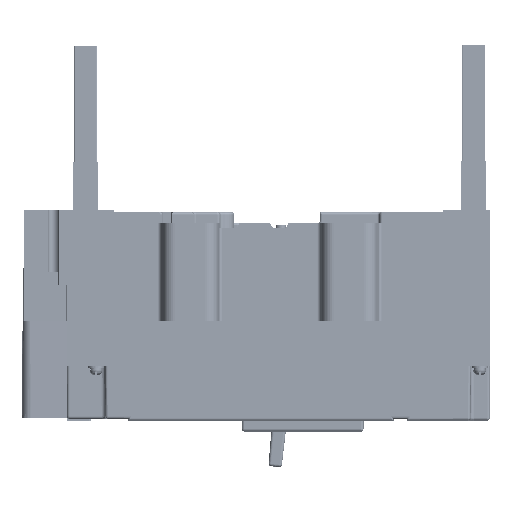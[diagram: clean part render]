
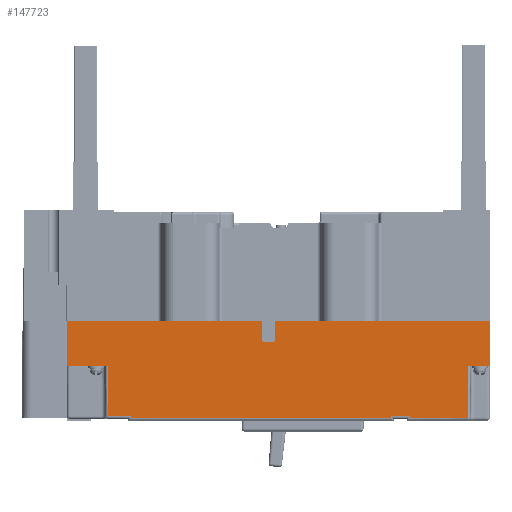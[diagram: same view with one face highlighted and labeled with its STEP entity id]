
A CAD part, left-side view. The second image highlights one B-rep face of the part: STEP entity #147723.
In plain terms, the highlighted planar face has unit normal (-1, 0, 0).
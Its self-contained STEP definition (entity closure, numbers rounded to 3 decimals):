
#8336 = CARTESIAN_POINT ( 'NONE',  ( -174.063, -5.722, -160.393 ) ) ;
#23820 = ORIENTED_EDGE ( 'NONE', *, *, #178137, .T. ) ;
#23822 = ORIENTED_EDGE ( 'NONE', *, *, #181579, .T. ) ;
#23824 = ORIENTED_EDGE ( 'NONE', *, *, #181131, .T. ) ;
#23827 = ORIENTED_EDGE ( 'NONE', *, *, #184129, .T. ) ;
#23829 = ORIENTED_EDGE ( 'NONE', *, *, #181502, .T. ) ;
#23832 = ORIENTED_EDGE ( 'NONE', *, *, #180177, .T. ) ;
#23834 = ORIENTED_EDGE ( 'NONE', *, *, #182353, .T. ) ;
#23837 = ORIENTED_EDGE ( 'NONE', *, *, #180363, .T. ) ;
#23839 = ORIENTED_EDGE ( 'NONE', *, *, #181870, .T. ) ;
#23841 = ORIENTED_EDGE ( 'NONE', *, *, #181563, .T. ) ;
#23843 = ORIENTED_EDGE ( 'NONE', *, *, #181369, .T. ) ;
#23845 = ORIENTED_EDGE ( 'NONE', *, *, #183919, .T. ) ;
#23848 = ORIENTED_EDGE ( 'NONE', *, *, #182772, .T. ) ;
#23850 = ORIENTED_EDGE ( 'NONE', *, *, #178999, .T. ) ;
#51887 = VERTEX_POINT ( 'NONE', #223431 ) ;
#52031 = VERTEX_POINT ( 'NONE', #223221 ) ;
#64653 = AXIS2_PLACEMENT_3D ( 'NONE', #94555, #94581, #94584 ) ;
#69977 = FACE_OUTER_BOUND ( 'NONE', #77623, .T. ) ;
#70695 = VERTEX_POINT ( 'NONE', #222362 ) ;
#70821 = VERTEX_POINT ( 'NONE', #225732 ) ;
#71045 = VERTEX_POINT ( 'NONE', #188754 ) ;
#71135 = VERTEX_POINT ( 'NONE', #188830 ) ;
#71269 = VERTEX_POINT ( 'NONE', #188938 ) ;
#77623 = EDGE_LOOP ( 'NONE', ( #23820, #23822, #23824, #23827, #23829, #23832, #23834, #23837, #23839, #23841, #23843, #23845, #23848, #23850 ) ) ;
#94555 = CARTESIAN_POINT ( 'NONE',  ( -174.063, -3.722, -162.393 ) ) ;
#94572 = PLANE ( 'NONE',  #64653 ) ;
#94581 = DIRECTION ( 'NONE',  ( -1., 0., 0. ) ) ;
#94584 = DIRECTION ( 'NONE',  ( 0., 1., 0. ) ) ;
#103563 = LINE ( 'NONE', #110036, #103576 ) ;
#103576 = VECTOR ( 'NONE', #110053, 1000. ) ;
#105210 = LINE ( 'NONE', #208588, #105222 ) ;
#105222 = VECTOR ( 'NONE', #208572, 1000. ) ;
#105574 = LINE ( 'NONE', #209186, #105578 ) ;
#105578 = VECTOR ( 'NONE', #209208, 1000. ) ;
#110036 = CARTESIAN_POINT ( 'NONE',  ( -174.063, 259.443, -85.543 ) ) ;
#110053 = DIRECTION ( 'NONE',  ( 0., 0., -1. ) ) ;
#111461 = CARTESIAN_POINT ( 'NONE',  ( -174.063, 259.443, -119.893 ) ) ;
#111469 = DIRECTION ( 'NONE',  ( 0., -1., 0. ) ) ;
#112789 = CARTESIAN_POINT ( 'NONE',  ( -174.063, 8.653, -159.193 ) ) ;
#147723 = ADVANCED_FACE ( 'NONE', ( #69977 ), #94572, .T. ) ;
#162723 = VERTEX_POINT ( 'NONE', #192301 ) ;
#163440 = LINE ( 'NONE', #111461, #163448 ) ;
#163448 = VECTOR ( 'NONE', #111469, 1000. ) ;
#178137 = EDGE_CURVE ( 'NONE', #162723, #51887, #163440, .T. ) ;
#178999 = EDGE_CURVE ( 'NONE', #194149, #162723, #103563, .T. ) ;
#180177 = EDGE_CURVE ( 'NONE', #71045, #264583, #105210, .T. ) ;
#180363 = EDGE_CURVE ( 'NONE', #70695, #266951, #105574, .T. ) ;
#181131 = EDGE_CURVE ( 'NONE', #255128, #265120, #213117, .T. ) ;
#181369 = EDGE_CURVE ( 'NONE', #71135, #70821, #213969, .T. ) ;
#181502 = EDGE_CURVE ( 'NONE', #71269, #71045, #214426, .T. ) ;
#181563 = EDGE_CURVE ( 'NONE', #255392, #71135, #214554, .T. ) ;
#181579 = EDGE_CURVE ( 'NONE', #51887, #255128, #214604, .T. ) ;
#181870 = EDGE_CURVE ( 'NONE', #266951, #255392, #215235, .T. ) ;
#182353 = EDGE_CURVE ( 'NONE', #264583, #70695, #216002, .T. ) ;
#182772 = EDGE_CURVE ( 'NONE', #52031, #194149, #247475, .T. ) ;
#183919 = EDGE_CURVE ( 'NONE', #70821, #52031, #248553, .T. ) ;
#184129 = EDGE_CURVE ( 'NONE', #265120, #71269, #248714, .T. ) ;
#188754 = CARTESIAN_POINT ( 'NONE',  ( -174.063, 8.653, -160.393 ) ) ;
#188830 = CARTESIAN_POINT ( 'NONE',  ( -174.063, -51.081, -119.893 ) ) ;
#188938 = CARTESIAN_POINT ( 'NONE',  ( -174.063, 209.843, -160.393 ) ) ;
#192301 = CARTESIAN_POINT ( 'NONE',  ( -174.063, 259.443, -119.893 ) ) ;
#194149 = VERTEX_POINT ( 'NONE', #269531 ) ;
#208572 = DIRECTION ( 'NONE',  ( 0., 0., 1. ) ) ;
#208588 = CARTESIAN_POINT ( 'NONE',  ( -174.063, 8.653, -161.193 ) ) ;
#209186 = CARTESIAN_POINT ( 'NONE',  ( -174.063, -5.722, -162.393 ) ) ;
#209208 = DIRECTION ( 'NONE',  ( 0., 0., -1. ) ) ;
#213117 = LINE ( 'NONE', #218492, #213179 ) ;
#213179 = VECTOR ( 'NONE', #218517, 1000. ) ;
#213969 = LINE ( 'NONE', #220242, #213996 ) ;
#213996 = VECTOR ( 'NONE', #220271, 1000. ) ;
#214426 = LINE ( 'NONE', #221321, #214432 ) ;
#214432 = VECTOR ( 'NONE', #221342, 1000. ) ;
#214554 = LINE ( 'NONE', #221736, #214571 ) ;
#214571 = VECTOR ( 'NONE', #221763, 1000. ) ;
#214604 = LINE ( 'NONE', #221833, #214621 ) ;
#214621 = VECTOR ( 'NONE', #221860, 1000. ) ;
#215235 = LINE ( 'NONE', #224040, #215238 ) ;
#215238 = VECTOR ( 'NONE', #224097, 1000. ) ;
#216002 = LINE ( 'NONE', #246544, #216006 ) ;
#216006 = VECTOR ( 'NONE', #246557, 1000. ) ;
#218492 = CARTESIAN_POINT ( 'NONE',  ( -174.063, 211.843, -159.193 ) ) ;
#218517 = DIRECTION ( 'NONE',  ( 0., -1., 0. ) ) ;
#220242 = CARTESIAN_POINT ( 'NONE',  ( -174.063, -53.082, -119.893 ) ) ;
#220271 = DIRECTION ( 'NONE',  ( 0., -1., 0. ) ) ;
#221321 = CARTESIAN_POINT ( 'NONE',  ( -174.063, -3.722, -160.393 ) ) ;
#221342 = DIRECTION ( 'NONE',  ( 0., -1., 0. ) ) ;
#221736 = CARTESIAN_POINT ( 'NONE',  ( -174.063, -51.082, -119.875 ) ) ;
#221763 = DIRECTION ( 'NONE',  ( 0., -0.009, 1. ) ) ;
#221833 = CARTESIAN_POINT ( 'NONE',  ( -174.063, 227.626, -161.175 ) ) ;
#221860 = DIRECTION ( 'NONE',  ( 0., -0.009, -1. ) ) ;
#222362 = CARTESIAN_POINT ( 'NONE',  ( -174.063, -5.722, -159.193 ) ) ;
#223221 = CARTESIAN_POINT ( 'NONE',  ( -174.063, -67.872, -85.543 ) ) ;
#223431 = CARTESIAN_POINT ( 'NONE',  ( -174.063, 227.986, -119.893 ) ) ;
#224040 = CARTESIAN_POINT ( 'NONE',  ( -174.063, -3.722, -160.393 ) ) ;
#224097 = DIRECTION ( 'NONE',  ( 0., -1., 0. ) ) ;
#225732 = CARTESIAN_POINT ( 'NONE',  ( -174.063, -67.872, -119.893 ) ) ;
#231018 = CARTESIAN_POINT ( 'NONE',  ( -174.063, 227.643, -159.193 ) ) ;
#231117 = CARTESIAN_POINT ( 'NONE',  ( -174.063, -50.728, -160.393 ) ) ;
#246544 = CARTESIAN_POINT ( 'NONE',  ( -174.063, -3.722, -159.193 ) ) ;
#246557 = DIRECTION ( 'NONE',  ( 0., -1., 0. ) ) ;
#247174 = CARTESIAN_POINT ( 'NONE',  ( -174.063, -67.872, -85.543 ) ) ;
#247178 = DIRECTION ( 'NONE',  ( 0., 1., 0. ) ) ;
#247437 = VECTOR ( 'NONE', #247178, 1000. ) ;
#247475 = LINE ( 'NONE', #247174, #247437 ) ;
#248553 = LINE ( 'NONE', #250808, #248556 ) ;
#248556 = VECTOR ( 'NONE', #250801, 1000. ) ;
#248714 = LINE ( 'NONE', #250923, #248716 ) ;
#248716 = VECTOR ( 'NONE', #250924, 1000. ) ;
#250801 = DIRECTION ( 'NONE',  ( 0., 0., 1. ) ) ;
#250808 = CARTESIAN_POINT ( 'NONE',  ( -174.063, -67.872, -119.893 ) ) ;
#250923 = CARTESIAN_POINT ( 'NONE',  ( -174.063, 209.843, -162.393 ) ) ;
#250924 = DIRECTION ( 'NONE',  ( 0., 0., -1. ) ) ;
#255128 = VERTEX_POINT ( 'NONE', #231018 ) ;
#255392 = VERTEX_POINT ( 'NONE', #231117 ) ;
#264583 = VERTEX_POINT ( 'NONE', #112789 ) ;
#265120 = VERTEX_POINT ( 'NONE', #275460 ) ;
#266951 = VERTEX_POINT ( 'NONE', #8336 ) ;
#269531 = CARTESIAN_POINT ( 'NONE',  ( -174.063, 259.443, -85.543 ) ) ;
#275460 = CARTESIAN_POINT ( 'NONE',  ( -174.063, 209.843, -159.193 ) ) ;
